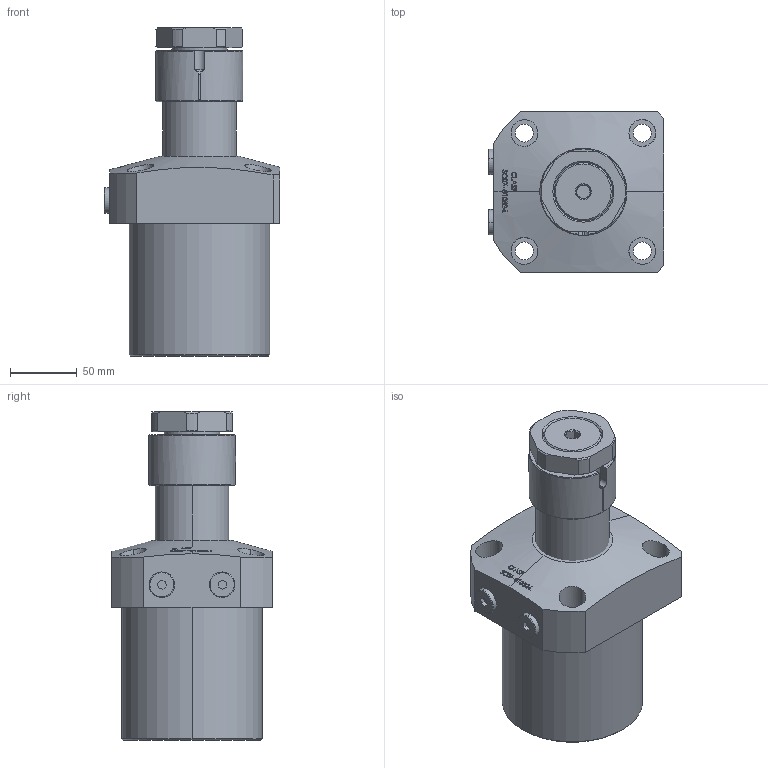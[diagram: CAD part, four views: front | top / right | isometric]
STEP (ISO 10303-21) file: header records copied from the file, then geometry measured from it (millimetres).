
FILE_DESCRIPTION (( 'STEP AP203' ), '1' );
FILE_NAME ('SC07-01052-L.STEP', '2022-07-05T17:56:37', ( '' ), ( '' ), 'SwSTEP 2.0', 'SolidWorks 2017', '' );
FILE_SCHEMA (( 'CONFIG_CONTROL_DESIGN' ));
Length unit declared in the file: millimetre
Products named in the file (6): SC-07-1052-L-04 sleeve; SC-07-01052-L-03-nut; SC07-01052-L; SC-07-01052-L BODY; SC-07-01052-L-Piston; SC-07-01052-L-05 plug
Assembly tree (6 placements, depth 2):
  SC07-01052-L
    SC-07-01052-L BODY
    SC-07-01052-L-Piston
    SC-07-01052-L-05 plug  x2
    SC-07-1052-L-04 sleeve
    SC-07-01052-L-03-nut
Bounding box: 131 x 120 x 245 mm (x, y, z)
Volume: 1784053.9 mm3; surface area: 139876.5 mm2
Topology: 6 solids, 6 shells, 373 faces, 932 edges, 611 vertices
Faces by surface type: plane 165, bspline 95, cylinder 63, cone 49, torus 1
Entity records: 17224 total; most frequent: CARTESIAN_POINT 8735, ORIENTED_EDGE 1800, DIRECTION 1272, EDGE_CURVE 900, VERTEX_POINT 591, AXIS2_PLACEMENT_3D 432, EDGE_LOOP 409, LINE 408
